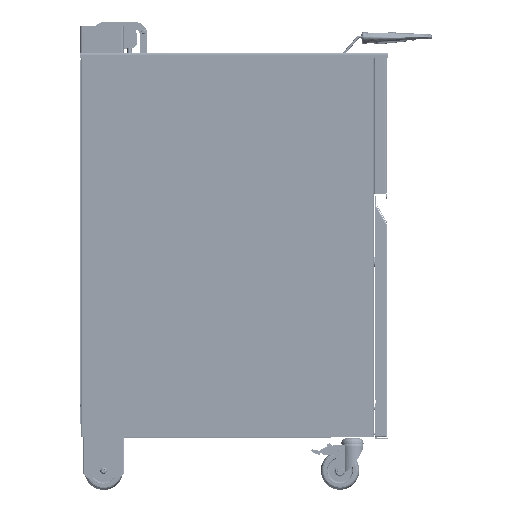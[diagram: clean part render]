
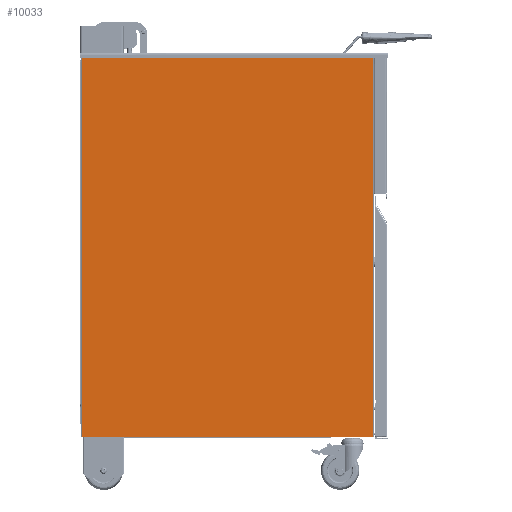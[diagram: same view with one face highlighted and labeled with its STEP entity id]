
A CAD part, left-side view. The second image highlights one B-rep face of the part: STEP entity #10033.
In plain terms, the highlighted planar face has unit normal (-1, 0, 0).
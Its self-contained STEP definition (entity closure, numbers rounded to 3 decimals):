
#10033=ADVANCED_FACE('',(#18555),#136360,.T.);
#18555=FACE_OUTER_BOUND('',#27841,.T.);
#27841=EDGE_LOOP('',(#68309,#68310,#68311,#68312,#68313,#68314,#68315,#68316,
#68317,#68318,#68319,#68320,#68321,#68322,#68323,#68324));
#68309=ORIENTED_EDGE('',*,*,#90609,.F.);
#68310=ORIENTED_EDGE('',*,*,#90610,.F.);
#68311=ORIENTED_EDGE('',*,*,#90611,.F.);
#68312=ORIENTED_EDGE('',*,*,#90612,.F.);
#68313=ORIENTED_EDGE('',*,*,#90613,.F.);
#68314=ORIENTED_EDGE('',*,*,#90614,.F.);
#68315=ORIENTED_EDGE('',*,*,#90615,.F.);
#68316=ORIENTED_EDGE('',*,*,#90616,.F.);
#68317=ORIENTED_EDGE('',*,*,#90617,.F.);
#68318=ORIENTED_EDGE('',*,*,#90618,.F.);
#68319=ORIENTED_EDGE('',*,*,#90619,.F.);
#68320=ORIENTED_EDGE('',*,*,#90620,.F.);
#68321=ORIENTED_EDGE('',*,*,#90621,.F.);
#68322=ORIENTED_EDGE('',*,*,#90622,.F.);
#68323=ORIENTED_EDGE('',*,*,#90623,.F.);
#68324=ORIENTED_EDGE('',*,*,#90608,.F.);
#90608=EDGE_CURVE('',#132094,#132095,#104221,.T.);
#90609=EDGE_CURVE('',#132096,#132094,#104222,.T.);
#90610=EDGE_CURVE('',#132097,#132096,#104223,.T.);
#90611=EDGE_CURVE('',#132098,#132097,#104224,.T.);
#90612=EDGE_CURVE('',#132099,#132098,#104225,.T.);
#90613=EDGE_CURVE('',#132100,#132099,#104226,.T.);
#90614=EDGE_CURVE('',#132101,#132100,#104227,.T.);
#90615=EDGE_CURVE('',#132102,#132101,#104228,.T.);
#90616=EDGE_CURVE('',#132103,#132102,#104229,.T.);
#90617=EDGE_CURVE('',#132104,#132103,#104230,.T.);
#90618=EDGE_CURVE('',#132105,#132104,#104231,.T.);
#90619=EDGE_CURVE('',#132106,#132105,#104232,.T.);
#90620=EDGE_CURVE('',#132107,#132106,#104233,.T.);
#90621=EDGE_CURVE('',#132108,#132107,#104234,.T.);
#90622=EDGE_CURVE('',#132109,#132108,#104235,.T.);
#90623=EDGE_CURVE('',#132095,#132109,#104236,.T.);
#104221=B_SPLINE_CURVE_WITH_KNOTS('',1,(#463032,#463033),.UNSPECIFIED.,
 .F.,.F.,(2,2),(-2.5,0.),.UNSPECIFIED.);
#104222=B_SPLINE_CURVE_WITH_KNOTS('',1,(#463034,#463035),.UNSPECIFIED.,
 .F.,.F.,(2,2),(-0.5,0.),.UNSPECIFIED.);
#104223=B_SPLINE_CURVE_WITH_KNOTS('',1,(#463036,#463037),.UNSPECIFIED.,
 .F.,.F.,(2,2),(-0.5,0.),.UNSPECIFIED.);
#104224=B_SPLINE_CURVE_WITH_KNOTS('',1,(#463038,#463039),.UNSPECIFIED.,
 .F.,.F.,(2,2),(-402.,0.),.UNSPECIFIED.);
#104225=B_SPLINE_CURVE_WITH_KNOTS('',1,(#463040,#463041),.UNSPECIFIED.,
 .F.,.F.,(2,2),(-0.5,0.),.UNSPECIFIED.);
#104226=B_SPLINE_CURVE_WITH_KNOTS('',1,(#463042,#463043),.UNSPECIFIED.,
 .F.,.F.,(2,2),(-0.5,0.),.UNSPECIFIED.);
#104227=B_SPLINE_CURVE_WITH_KNOTS('',1,(#463044,#463045),.UNSPECIFIED.,
 .F.,.F.,(2,2),(-2.5,0.),.UNSPECIFIED.);
#104228=B_SPLINE_CURVE_WITH_KNOTS('',1,(#463046,#463047),.UNSPECIFIED.,
 .F.,.F.,(2,2),(-81.335,0.),.UNSPECIFIED.);
#104229=B_SPLINE_CURVE_WITH_KNOTS('',1,(#463048,#463049),.UNSPECIFIED.,
 .F.,.F.,(2,2),(-744.8,0.),.UNSPECIFIED.);
#104230=B_SPLINE_CURVE_WITH_KNOTS('',1,(#463050,#463051),.UNSPECIFIED.,
 .F.,.F.,(2,2),(-81.835,0.),.UNSPECIFIED.);
#104231=B_SPLINE_CURVE_WITH_KNOTS('',1,(#463052,#463053),.UNSPECIFIED.,
 .F.,.F.,(2,2),(-0.2,0.),.UNSPECIFIED.);
#104232=B_SPLINE_CURVE_WITH_KNOTS('',1,(#463054,#463055),.UNSPECIFIED.,
 .F.,.F.,(2,2),(-402.,0.),.UNSPECIFIED.);
#104233=B_SPLINE_CURVE_WITH_KNOTS('',1,(#463056,#463057),.UNSPECIFIED.,
 .F.,.F.,(2,2),(-0.2,0.),.UNSPECIFIED.);
#104234=B_SPLINE_CURVE_WITH_KNOTS('',1,(#463058,#463059),.UNSPECIFIED.,
 .F.,.F.,(2,2),(-81.835,0.),.UNSPECIFIED.);
#104235=B_SPLINE_CURVE_WITH_KNOTS('',1,(#463060,#463061),.UNSPECIFIED.,
 .F.,.F.,(2,2),(-744.8,0.),.UNSPECIFIED.);
#104236=B_SPLINE_CURVE_WITH_KNOTS('',1,(#463062,#463063),.UNSPECIFIED.,
 .F.,.F.,(2,2),(-81.335,0.),.UNSPECIFIED.);
#132094=VERTEX_POINT('',#462756);
#132095=VERTEX_POINT('',#462757);
#132096=VERTEX_POINT('',#462758);
#132097=VERTEX_POINT('',#462759);
#132098=VERTEX_POINT('',#462760);
#132099=VERTEX_POINT('',#462761);
#132100=VERTEX_POINT('',#462762);
#132101=VERTEX_POINT('',#462763);
#132102=VERTEX_POINT('',#462764);
#132103=VERTEX_POINT('',#462765);
#132104=VERTEX_POINT('',#462766);
#132105=VERTEX_POINT('',#462767);
#132106=VERTEX_POINT('',#462768);
#132107=VERTEX_POINT('',#462769);
#132108=VERTEX_POINT('',#462770);
#132109=VERTEX_POINT('',#462771);
#136360=PLANE('',#154073);
#154073=AXIS2_PLACEMENT_3D('',#462589,#174487,$);
#174487=DIRECTION('',(-1.,0.,0.));
#462589=CARTESIAN_POINT('',(-246.5,-338.5,28.));
#462756=CARTESIAN_POINT('',(-246.5,-200.598,845.));
#462757=CARTESIAN_POINT('',(-246.5,-200.598,847.5));
#462758=CARTESIAN_POINT('',(-246.5,-200.098,845.));
#462759=CARTESIAN_POINT('',(-246.5,-200.098,845.5));
#462760=CARTESIAN_POINT('',(-246.5,201.902,845.5));
#462761=CARTESIAN_POINT('',(-246.5,201.902,845.));
#462762=CARTESIAN_POINT('',(-246.5,202.402,845.));
#462763=CARTESIAN_POINT('',(-246.5,202.402,847.5));
#462764=CARTESIAN_POINT('',(-246.5,283.737,847.5));
#462765=CARTESIAN_POINT('',(-246.5,283.737,102.7));
#462766=CARTESIAN_POINT('',(-246.5,201.902,102.7));
#462767=CARTESIAN_POINT('',(-246.5,201.902,102.5));
#462768=CARTESIAN_POINT('',(-246.5,-200.098,102.5));
#462769=CARTESIAN_POINT('',(-246.5,-200.098,102.7));
#462770=CARTESIAN_POINT('',(-246.5,-281.933,102.7));
#462771=CARTESIAN_POINT('',(-246.5,-281.933,847.5));
#463032=CARTESIAN_POINT('',(-246.5,-200.598,845.));
#463033=CARTESIAN_POINT('',(-246.5,-200.598,847.5));
#463034=CARTESIAN_POINT('',(-246.5,-200.098,845.));
#463035=CARTESIAN_POINT('',(-246.5,-200.598,845.));
#463036=CARTESIAN_POINT('',(-246.5,-200.098,845.5));
#463037=CARTESIAN_POINT('',(-246.5,-200.098,845.));
#463038=CARTESIAN_POINT('',(-246.5,201.902,845.5));
#463039=CARTESIAN_POINT('',(-246.5,-200.098,845.5));
#463040=CARTESIAN_POINT('',(-246.5,201.902,845.));
#463041=CARTESIAN_POINT('',(-246.5,201.902,845.5));
#463042=CARTESIAN_POINT('',(-246.5,202.402,845.));
#463043=CARTESIAN_POINT('',(-246.5,201.902,845.));
#463044=CARTESIAN_POINT('',(-246.5,202.402,847.5));
#463045=CARTESIAN_POINT('',(-246.5,202.402,845.));
#463046=CARTESIAN_POINT('',(-246.5,283.737,847.5));
#463047=CARTESIAN_POINT('',(-246.5,202.402,847.5));
#463048=CARTESIAN_POINT('',(-246.5,283.737,102.7));
#463049=CARTESIAN_POINT('',(-246.5,283.737,847.5));
#463050=CARTESIAN_POINT('',(-246.5,201.902,102.7));
#463051=CARTESIAN_POINT('',(-246.5,283.737,102.7));
#463052=CARTESIAN_POINT('',(-246.5,201.902,102.5));
#463053=CARTESIAN_POINT('',(-246.5,201.902,102.7));
#463054=CARTESIAN_POINT('',(-246.5,-200.098,102.5));
#463055=CARTESIAN_POINT('',(-246.5,201.902,102.5));
#463056=CARTESIAN_POINT('',(-246.5,-200.098,102.7));
#463057=CARTESIAN_POINT('',(-246.5,-200.098,102.5));
#463058=CARTESIAN_POINT('',(-246.5,-281.933,102.7));
#463059=CARTESIAN_POINT('',(-246.5,-200.098,102.7));
#463060=CARTESIAN_POINT('',(-246.5,-281.933,847.5));
#463061=CARTESIAN_POINT('',(-246.5,-281.933,102.7));
#463062=CARTESIAN_POINT('',(-246.5,-200.598,847.5));
#463063=CARTESIAN_POINT('',(-246.5,-281.933,847.5));
